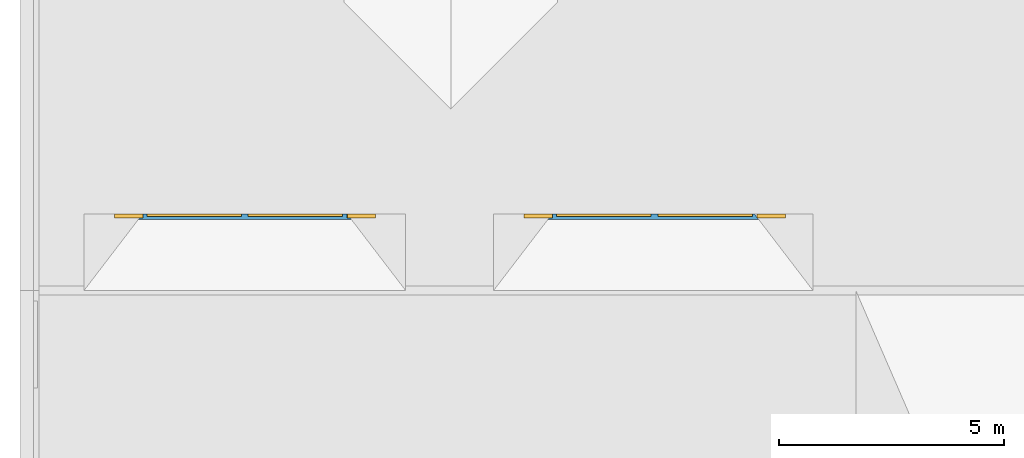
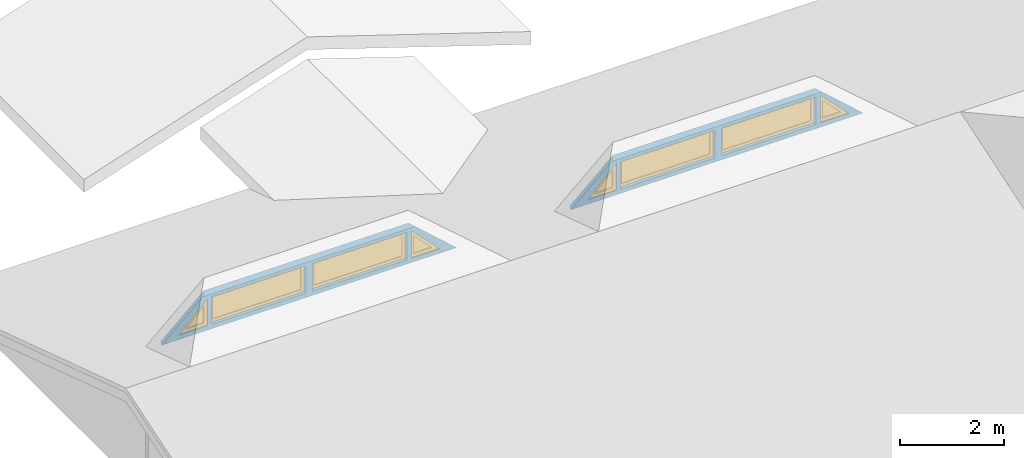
# One storey, part 2 of 7: 8 windows, 2 walls, 8 openings.
"""IFC2X3 building model written with IfcOpenShell, lengths in millimetres."""

from ifc_helpers import new_model, entity, si_unit, converted_unit, derived_unit, money_unit, direction, frame, origin_with_axes, place, context, subcontext, project, spatial, open_shell, faceted_brep, surface_model, source, transform, mapped, material, type_object, element, fill, save


model = new_model("IFC2X3")

# Units and contexts
model_context = context("Model", 3, precision=0.01, world=origin_with_axes(), true_north=direction((0.0, 1.0)))
body_context = subcontext(model_context, "Body", "Model", "MODEL_VIEW")
ifc_project = project(units=[si_unit("LENGTHUNIT", "METRE", prefix="MILLI"), si_unit("AREAUNIT", "SQUARE_METRE"), si_unit("VOLUMEUNIT", "CUBIC_METRE"), converted_unit("PLANEANGLEUNIT", "DEGREE", entity("IfcPlaneAngleMeasure", 0.0174532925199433), si_unit("PLANEANGLEUNIT", "RADIAN"), dimensions=[0, 0, 0, 0, 0, 0, 0]), money_unit("USD"), converted_unit("TIMEUNIT", "Year", entity("IfcTimeMeasure", 31557600.0), si_unit("TIMEUNIT", "SECOND"), dimensions=[0, 0, 1, 0, 0, 0, 0]), si_unit("MASSUNIT", "GRAM", prefix="KILO"), si_unit("THERMODYNAMICTEMPERATUREUNIT", "DEGREE_CELSIUS"), si_unit("LUMINOUSINTENSITYUNIT", "LUMEN"), si_unit("ENERGYUNIT", "JOULE", prefix="MEGA"), derived_unit("THERMALCONDUCTANCEUNIT", [(si_unit("POWERUNIT", "WATT"), 1), (si_unit("LENGTHUNIT", "METRE"), -1), (si_unit("THERMODYNAMICTEMPERATUREUNIT", "KELVIN"), -1)]), derived_unit("SPECIFICHEATCAPACITYUNIT", [(si_unit("ENERGYUNIT", "JOULE"), 1), (si_unit("MASSUNIT", "GRAM", prefix="KILO"), -1), (si_unit("THERMODYNAMICTEMPERATUREUNIT", "KELVIN"), -1)]), derived_unit("MASSDENSITYUNIT", [(si_unit("MASSUNIT", "GRAM", prefix="KILO"), 1), (si_unit("VOLUMEUNIT", "CUBIC_METRE"), -1)])], contexts=[model_context])

# Site, building, storey
site_placement = place(None, origin_with_axes())
site = spatial("IfcSite", under=ifc_project, at=site_placement, Name="Site", CompositionType="ELEMENT")
building_placement = place(site_placement, origin_with_axes())
building = spatial("IfcBuilding", under=site, at=building_placement, Name="Building", CompositionType="ELEMENT")
storey_placement = place(building_placement, frame((0.0, 0.0, 5900.0), z_axis=(0.0, 0.0, 1.0), x_axis=(1.0, 0.0, 0.0)))
storey = spatial("IfcBuildingStorey", under=building, at=storey_placement, Name="TAK", CompositionType="ELEMENT", Elevation=5900.0)

# Wall, openings, windows
ifc_material = material(Name="GENERIC - STRUCTURAL")
wall_type = type_object("IfcWallType", Name="GENERIC - STRUCTURAL 120", PredefinedType="NOTDEFINED")
wall_1_placement = place(storey_placement, frame((-1107.900709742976, 16200.0, 1912.173367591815), z_axis=(0.0, 0.0, 1.0), x_axis=(1.0, 0.0, 0.0)))
wall_1 = element("IfcWall", 1, at=wall_1_placement, inside=storey, type_object=wall_type, material=ifc_material, Name="SW - 001", context=body_context, shape_type="Brep", body=[
    faceted_brep([(6565.801361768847, -119.9999918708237, 2.504500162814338e-05), (5649.66880356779, -120.000000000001, 818.7505434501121), (916.1326159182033, -120.000000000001, 818.7505434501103), (1.121712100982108e-05, -120.0000040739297, -1.255128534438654e-05), (3207.900709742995, -119.9999918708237, 99.99999999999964), (1107.900709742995, -119.9999918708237, 99.99999999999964), (1107.900709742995, -119.9999918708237, 749.9999999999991), (3207.900709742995, -119.9999918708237, 749.9999999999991), (5457.900709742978, -120.000000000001, 749.9999999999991), (5457.900709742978, -120.000000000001, 99.99999999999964), (3357.900709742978, -120.000000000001, 99.99999999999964), (3357.900709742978, -120.000000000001, 749.9999999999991), (388.9383305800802, -120.000000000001, 99.99999999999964), (1021.43833058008, -120.000000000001, 749.9999999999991), (1021.93833058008, -120.000000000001, 99.99999999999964), (5557.900709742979, -120.0000040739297, 99.99999999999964), (5558.400709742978, -120.0000040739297, 749.9999999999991), (6190.900709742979, -120.0000040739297, 99.99999999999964), (6522.218762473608, 0.0, 0.0), (5557.900709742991, 0.0, 861.8140420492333), (1007.900709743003, 0.0, 861.8140420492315), (43.58265701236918, 0.0, 0.0), (3207.900709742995, 0.0, 99.99999999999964), (1107.900709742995, 0.0, 99.99999999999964), (1107.900709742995, 0.0, 749.9999999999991), (3207.900709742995, 0.0, 749.9999999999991), (5457.900709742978, 0.0, 749.9999999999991), (5457.900709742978, 0.0, 99.99999999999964), (3357.900709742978, 0.0, 99.99999999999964), (3357.900709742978, 0.0, 749.9999999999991), (1021.43833058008, 0.0, 749.9999999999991), (388.9383305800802, 0.0, 99.99999999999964), (1021.93833058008, 0.0, 99.99999999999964), (5557.900709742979, 0.0, 99.99999999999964), (5558.400709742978, 0.0, 749.9999999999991), (6190.900709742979, 0.0, 99.99999999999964)], [[[0, 1, 2, 3], [4, 5, 6, 7], [8, 9, 10, 11], [12, 13, 14], [15, 16, 17]], [[1, 0, 18, 19]], [[1, 19, 20, 2]], [[20, 21, 3, 2]], [[18, 0, 3, 21]], [[4, 22, 23, 5]], [[5, 23, 24, 6]], [[6, 24, 25, 7]], [[7, 25, 22, 4]], [[9, 8, 26, 27]], [[10, 9, 27, 28]], [[11, 10, 28, 29]], [[8, 11, 29, 26]], [[30, 13, 12, 31]], [[32, 14, 13, 30]], [[31, 12, 14, 32]], [[33, 34, 16, 15]], [[34, 35, 17, 16]], [[35, 33, 15, 17]], [[19, 18, 21, 20], [24, 23, 22, 25], [26, 29, 28, 27], [30, 31, 32], [34, 33, 35]]]),
])
opening_1_placement = place(wall_1_placement, frame((2157.900709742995, 0.0, 99.99999999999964), z_axis=(0.0, 0.0, 1.0), x_axis=(1.0, 0.0, 0.0)))
opening_1 = element("IfcOpeningElement", 2, at=opening_1_placement, cuts=wall_1, Name="WD - 001", context=body_context, shape_type="Brep", body=[
    faceted_brep([(-1050.0, -121.0000000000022, 649.9999999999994), (-1050.0, -121.0000000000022, 0.0), (1050.0, -121.0000000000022, 0.0), (1050.0, -121.0000000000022, 649.9999999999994), (-1050.0, 1.000000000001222, 649.9999999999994), (-1050.0, 1.000000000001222, 0.0), (1050.0, 1.000000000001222, 0.0), (1050.0, 1.000000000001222, 649.9999999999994)], [[[0, 1, 2, 3]], [[4, 5, 1, 0]], [[5, 6, 2, 1]], [[6, 7, 3, 2]], [[7, 4, 0, 3]], [[6, 5, 4, 7]]]),
])
opening_2_placement = place(wall_1_placement, frame((5874.400709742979, 0.0, 99.99999999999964), z_axis=(0.0, 0.0, 1.0), x_axis=(1.0, 0.0, 0.0)))
opening_2 = element("IfcOpeningElement", 3, at=opening_2_placement, cuts=wall_1, Name="WD - 001", context=body_context, shape_type="Brep", body=[
    faceted_brep([(-315.9999999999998, -121.0000000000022, 649.9999999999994), (-316.4999999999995, -121.0000000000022, 0.0), (316.4999999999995, -121.0000000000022, 0.0), (-315.9999999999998, 1.000000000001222, 649.9999999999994), (-316.4999999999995, 1.000000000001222, 0.0), (316.4999999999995, 1.000000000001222, 0.0)], [[[0, 1, 2]], [[3, 4, 1, 0]], [[4, 5, 2, 1]], [[5, 3, 0, 2]], [[5, 4, 3]]]),
])
opening_3_placement = place(wall_1_placement, frame((705.4383305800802, 0.0, 99.99999999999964), z_axis=(0.0, 0.0, 1.0), x_axis=(1.0, 0.0, 0.0)))
opening_3 = element("IfcOpeningElement", 4, at=opening_3_placement, cuts=wall_1, Name="WD - 001", context=body_context, shape_type="Brep", body=[
    faceted_brep([(316.0000000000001, -121.0000000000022, 649.9999999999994), (-316.5, -121.0000000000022, 0.0), (316.5, -121.0000000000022, 0.0), (316.0000000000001, 1.000000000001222, 649.9999999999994), (-316.5, 1.000000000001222, 0.0), (316.5, 1.000000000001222, 0.0)], [[[0, 1, 2]], [[3, 4, 1, 0]], [[4, 5, 2, 1]], [[5, 3, 0, 2]], [[5, 4, 3]]]),
])
opening_4_placement = place(wall_1_placement, frame((4407.900709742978, 0.0, 99.99999999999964), z_axis=(0.0, 0.0, 1.0), x_axis=(1.0, 0.0, 0.0)))
opening_4 = element("IfcOpeningElement", 5, at=opening_4_placement, cuts=wall_1, Name="WD - 001", context=body_context, shape_type="Brep", body=[
    faceted_brep([(-1050.0, -121.0000000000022, 649.9999999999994), (-1050.0, -121.0000000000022, 0.0), (1050.0, -121.0000000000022, 0.0), (1050.0, -121.0000000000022, 649.9999999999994), (-1050.0, 1.000000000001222, 649.9999999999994), (-1050.0, 1.000000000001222, 0.0), (1050.0, 1.000000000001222, 0.0), (1050.0, 1.000000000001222, 649.9999999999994)], [[[0, 1, 2, 3]], [[4, 5, 1, 0]], [[5, 6, 2, 1]], [[6, 7, 3, 2]], [[7, 4, 0, 3]], [[6, 5, 4, 7]]]),
])
window_style_1 = type_object("IfcWindowStyle", Name="Vindu variabelt", ConstructionType="NOTDEFINED", OperationType="SINGLE_PANEL", ParameterTakesPrecedence=False, Sizeable=False)
shared_shape_1 = source(origin_with_axes(), body_context, "Body", "SurfaceModel", [
    faceted_brep([(-984.0000000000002, -50.00000000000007, 584.0), (-984.0000000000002, 0.0, 584.0), (-1050.0, 0.0, 584.0), (-1050.0, -50.00000000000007, 584.0), (-984.0000000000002, -50.00000000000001, 66.0), (-984.0000000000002, 0.0, 66.0), (-1050.0, 0.0, 66.0), (-1050.0, -50.00000000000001, 66.0)], [[[0, 1, 2, 3]], [[4, 5, 1, 0]], [[1, 5, 6, 2]], [[3, 2, 6, 7]], [[0, 3, 7, 4]], [[7, 6, 5, 4]]]),
    faceted_brep([(984.0000000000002, -50.00000000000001, 66.0), (984.0000000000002, 0.0, 66.0), (1050.0, 0.0, 66.0), (1050.0, -50.00000000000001, 66.0), (984.0000000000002, -50.00000000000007, 584.0), (984.0000000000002, 0.0, 584.0), (1050.0, 0.0, 584.0), (1050.0, -50.00000000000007, 584.0)], [[[0, 1, 2, 3]], [[4, 5, 1, 0]], [[1, 5, 6, 2]], [[3, 2, 6, 7]], [[0, 3, 7, 4]], [[7, 6, 5, 4]]]),
    faceted_brep([(-984.0000000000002, -50.00000000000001, 66.0), (-984.0000000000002, 0.0, 66.0), (-1050.0, 0.0, 66.0), (-1050.0, -50.00000000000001, 66.0), (984.0000000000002, -50.00000000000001, 66.0), (984.0000000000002, 0.0, 66.0), (1050.0, 0.0, 66.0), (1050.0, 0.0, 0.0), (-1050.0, 0.0, 0.0), (-1050.0, -50.0, 0.0), (1050.0, -50.0, 0.0), (1050.0, -50.00000000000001, 66.0)], [[[0, 1, 2, 3]], [[4, 5, 1, 0]], [[1, 5, 6, 7, 8, 2]], [[3, 2, 8, 9]], [[0, 3, 9, 10, 11, 4]], [[11, 6, 5, 4]], [[10, 7, 6, 11]], [[9, 8, 7, 10]]]),
    faceted_brep([(984.0000000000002, -50.00000000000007, 584.0), (984.0000000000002, 0.0, 584.0), (1050.0, 0.0, 584.0), (1050.0, -50.00000000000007, 584.0), (-984.0000000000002, -50.00000000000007, 584.0), (-984.0000000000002, 0.0, 584.0), (-1050.0, 0.0, 584.0), (-1050.0, 0.0, 650.0), (1050.0, 0.0, 650.0), (1050.0, -50.00000000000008, 650.0), (-1050.0, -50.00000000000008, 650.0), (-1050.0, -50.00000000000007, 584.0)], [[[0, 1, 2, 3]], [[4, 5, 1, 0]], [[1, 5, 6, 7, 8, 2]], [[3, 2, 8, 9]], [[0, 3, 9, 10, 11, 4]], [[11, 6, 5, 4]], [[10, 7, 6, 11]], [[9, 8, 7, 10]]]),
    surface_model("IfcShellBasedSurfaceModel", [(-984.0000000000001, -35.00000000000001, 66.0), (984.0000000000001, -35.00000000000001, 66.0), (984.0000000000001, -35.00000000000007, 583.9999999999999), (-984.0000000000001, -35.00000000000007, 583.9999999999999)], [open_shell([[[0, 1, 2, 3]]])]),
    surface_model("IfcShellBasedSurfaceModel", [(-984.0000000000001, -15.00000000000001, 66.0), (-984.0000000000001, -15.00000000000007, 583.9999999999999), (984.0000000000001, -15.00000000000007, 583.9999999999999), (984.0000000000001, -15.00000000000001, 66.0)], [open_shell([[[0, 1, 2, 3]]])]),
])
window_1_placement = place(opening_1_placement, frame((-1050.0, 0.0, 0.0), z_axis=(0.0, 0.0, 1.0), x_axis=(1.0, 0.0, 0.0)))
window_1 = element("IfcWindow", 6, at=window_1_placement, inside=storey, type_object=window_style_1, Name="WD - 001", ObjectType="WINDOW", OverallHeight=650.0, OverallWidth=2100.0, context=body_context, shape_type="MappedRepresentation", body=[
    mapped(shared_shape_1, transform((1050.0, 0.0, 0.0))),
])
fill(opening_1, window_1)
window_2_placement = place(opening_4_placement, frame((-1050.0, 0.0, 0.0), z_axis=(0.0, 0.0, 1.0), x_axis=(1.0, 0.0, 0.0)))
window_2 = element("IfcWindow", 7, at=window_2_placement, inside=storey, type_object=window_style_1, Name="WD - 001", ObjectType="WINDOW", OverallHeight=650.0, OverallWidth=2100.0, context=body_context, shape_type="MappedRepresentation", body=[
    mapped(shared_shape_1, transform((1050.0, 0.0, 0.0))),
])
fill(opening_4, window_2)
window_style_2 = type_object("IfcWindowStyle", Name="Vindu trekantet", ConstructionType="NOTDEFINED", OperationType="USERDEFINED", ParameterTakesPrecedence=False, Sizeable=False)
shared_shape_2 = source(origin_with_axes(), body_context, "Body", "SurfaceModel", [
    faceted_brep([(316.5, -92.0, 0.0), (160.1867302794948, -92.0, 66.0), (160.1867302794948, 0.0, 66.0), (316.5, 0.0, 0.0), (-316.0, -92.00000000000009, 649.9999999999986), (-250.1248542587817, -92.00000000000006, 487.6640789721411), (-250.1248542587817, 0.0, 487.6640789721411), (-316.0, 0.0, 649.9999999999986)], [[[0, 1, 2, 3]], [[0, 4, 5, 1]], [[1, 5, 6, 2]], [[3, 2, 6, 7]], [[4, 0, 3, 7]], [[5, 4, 7, 6]]]),
    faceted_brep([(-316.0, -92.00000000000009, 649.9999999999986), (-250.1248542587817, -92.00000000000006, 487.6640789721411), (-250.1248542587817, 0.0, 487.6640789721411), (-316.0, 0.0, 649.9999999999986), (-316.5, -92.0, 0.0), (-250.4492112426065, -92.0, 66.0), (-250.4492112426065, 0.0, 66.0), (-316.5, 0.0, 0.0)], [[[0, 1, 2, 3]], [[0, 4, 5, 1]], [[1, 5, 6, 2]], [[3, 2, 6, 7]], [[4, 0, 3, 7]], [[5, 4, 7, 6]]]),
    faceted_brep([(316.5, -92.0, 0.0), (-316.5, -92.0, 0.0), (-316.5, 0.0, 0.0), (316.5, 0.0, 0.0), (160.1867302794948, -92.0, 66.0), (-250.4492112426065, -92.0, 66.0), (-250.4492112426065, 0.0, 66.0), (160.1867302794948, 0.0, 66.0)], [[[0, 1, 2, 3]], [[0, 4, 5, 1]], [[1, 5, 6, 2]], [[3, 2, 6, 7]], [[4, 0, 3, 7]], [[5, 4, 7, 6]]]),
    surface_model("IfcShellBasedSurfaceModel", [(160.1867302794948, -56.0, 66.0), (-250.1248542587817, -56.00000000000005, 487.664078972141), (-250.4492112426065, -56.0, 66.0)], [open_shell([[[0, 1, 2]]])]),
    surface_model("IfcShellBasedSurfaceModel", [(160.1867302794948, -36.00000000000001, 66.0), (-250.4492112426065, -36.00000000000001, 66.0), (-250.1248542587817, -36.00000000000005, 487.664078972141)], [open_shell([[[0, 1, 2]]])]),
])
window_3_placement = place(opening_2_placement, frame((-316.4999999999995, 0.0, 0.0), z_axis=(0.0, 0.0, 1.0), x_axis=(1.0, 0.0, 0.0)))
window_3 = element("IfcWindow", 8, at=window_3_placement, inside=storey, type_object=window_style_2, Name="WD - 001", ObjectType="WINDOW", OverallHeight=650.0, OverallWidth=633.0, context=body_context, shape_type="MappedRepresentation", body=[
    mapped(shared_shape_2, transform((316.4999999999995, 0.0, 0.0))),
])
fill(opening_2, window_3)
shared_shape_3 = source(origin_with_axes(), body_context, "Body", "SurfaceModel", [
    faceted_brep([(-316.5, -92.0, 0.0), (-316.5, 0.0, 0.0), (-160.1867302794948, 0.0, 66.0), (-160.1867302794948, -92.0, 66.0), (316.0, -92.00000000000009, 649.9999999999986), (316.0, 0.0, 649.9999999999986), (250.1248542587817, 0.0, 487.6640789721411), (250.1248542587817, -92.00000000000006, 487.6640789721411)], [[[0, 1, 2, 3]], [[4, 5, 1, 0]], [[1, 5, 6, 2]], [[3, 2, 6, 7]], [[0, 3, 7, 4]], [[7, 6, 5, 4]]]),
    faceted_brep([(316.0, -92.00000000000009, 649.9999999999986), (316.0, 0.0, 649.9999999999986), (250.1248542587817, 0.0, 487.6640789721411), (250.1248542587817, -92.00000000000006, 487.6640789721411), (316.5, -92.0, 0.0), (316.5, 0.0, 0.0), (250.4492112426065, 0.0, 66.0), (250.4492112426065, -92.0, 66.0)], [[[0, 1, 2, 3]], [[4, 5, 1, 0]], [[1, 5, 6, 2]], [[3, 2, 6, 7]], [[0, 3, 7, 4]], [[7, 6, 5, 4]]]),
    faceted_brep([(-316.5, -92.0, 0.0), (-316.5, 0.0, 0.0), (316.5, 0.0, 0.0), (316.5, -92.0, 0.0), (-160.1867302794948, -92.0, 66.0), (-160.1867302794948, 0.0, 66.0), (250.4492112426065, 0.0, 66.0), (250.4492112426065, -92.0, 66.0)], [[[0, 1, 2, 3]], [[4, 5, 1, 0]], [[1, 5, 6, 2]], [[3, 2, 6, 7]], [[0, 3, 7, 4]], [[7, 6, 5, 4]]]),
    surface_model("IfcShellBasedSurfaceModel", [(-160.1867302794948, -56.0, 66.0), (250.4492112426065, -56.0, 66.0), (250.1248542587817, -56.00000000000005, 487.664078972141)], [open_shell([[[0, 1, 2]]])]),
    surface_model("IfcShellBasedSurfaceModel", [(-160.1867302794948, -36.00000000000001, 66.0), (250.1248542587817, -36.00000000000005, 487.664078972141), (250.4492112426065, -36.00000000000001, 66.0)], [open_shell([[[0, 1, 2]]])]),
])
window_4_placement = place(opening_3_placement, frame((-316.5, 0.0, 0.0), z_axis=(0.0, 0.0, 1.0), x_axis=(1.0, 0.0, 0.0)))
window_4 = element("IfcWindow", 9, at=window_4_placement, inside=storey, type_object=window_style_2, Name="WD - 001", ObjectType="WINDOW", OverallHeight=650.0, OverallWidth=633.0, context=body_context, shape_type="MappedRepresentation", body=[
    mapped(shared_shape_3, transform((316.5, 0.0, 0.0))),
])
fill(opening_3, window_4)

wall_2_placement = place(storey_placement, frame((7992.099361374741, 16200.0, 1912.173367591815), z_axis=(0.0, 0.0, 1.0), x_axis=(1.0, 0.0, 0.0)))
wall_2 = element("IfcWall", 10, at=wall_2_placement, inside=storey, type_object=wall_type, material=ifc_material, Name="SW - 001", context=body_context, shape_type="Brep", body=[
    faceted_brep([(916.1325447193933, -119.9999999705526, 818.7505435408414), (-1.869605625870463e-05, -119.9999932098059, 2.091976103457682e-05), (6515.801294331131, -119.9999928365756, 2.206963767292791e-05), (5599.66873245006, -120.000000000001, 818.7505434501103), (3207.900638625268, -119.9999999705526, 99.99999999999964), (1107.900638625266, -119.9999999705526, 99.99999999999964), (1107.900638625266, -119.9999999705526, 749.9999999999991), (3207.900638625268, -119.9999999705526, 749.9999999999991), (5457.90063862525, -119.9999932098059, 749.9999999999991), (5457.90063862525, -119.9999932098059, 99.99999999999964), (3357.900638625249, -119.9999932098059, 99.99999999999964), (3357.900638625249, -119.9999932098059, 749.9999999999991), (388.9382594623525, -119.9999928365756, 99.99999999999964), (1021.438259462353, -119.9999928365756, 749.9999999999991), (1021.938259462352, -119.9999928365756, 99.99999999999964), (5557.900638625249, -120.000000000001, 99.99999999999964), (5558.400638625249, -120.000000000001, 749.9999999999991), (6190.900638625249, -120.000000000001, 99.99999999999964), (1007.900638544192, 2.944844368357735e-08, 861.8140421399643), (43.58258570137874, 0.0, 0.0), (6472.218691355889, 0.0, 0.0), (5507.900638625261, 0.0, 861.8140420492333), (3207.900638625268, 0.0, 99.99999999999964), (1107.900638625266, 0.0, 99.99999999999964), (1107.900638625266, 0.0, 749.9999999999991), (3207.900638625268, 0.0, 749.9999999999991), (5457.90063862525, 2.944844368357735e-08, 749.9999999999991), (5457.90063862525, 2.944844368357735e-08, 99.99999999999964), (3357.900638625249, 2.944844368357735e-08, 99.99999999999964), (3357.900638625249, 2.944844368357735e-08, 749.9999999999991), (1021.438259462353, 0.0, 749.9999999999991), (388.9382594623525, 0.0, 99.99999999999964), (1021.938259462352, 0.0, 99.99999999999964), (5557.900638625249, 0.0, 99.99999999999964), (5558.400638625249, 0.0, 749.9999999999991), (6190.900638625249, 0.0, 99.99999999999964)], [[[0, 1, 2, 3], [4, 5, 6, 7], [8, 9, 10, 11], [12, 13, 14], [15, 16, 17]], [[0, 18, 19, 1]], [[1, 19, 20, 2]], [[2, 20, 21, 3]], [[18, 0, 3, 21]], [[4, 22, 23, 5]], [[5, 23, 24, 6]], [[6, 24, 25, 7]], [[7, 25, 22, 4]], [[9, 8, 26, 27]], [[10, 9, 27, 28]], [[11, 10, 28, 29]], [[8, 11, 29, 26]], [[30, 13, 12, 31]], [[32, 14, 13, 30]], [[31, 12, 14, 32]], [[33, 34, 16, 15]], [[34, 35, 17, 16]], [[35, 33, 15, 17]], [[19, 18, 21, 20], [24, 23, 22, 25], [26, 29, 28, 27], [30, 31, 32], [34, 33, 35]]]),
])
opening_5_placement = place(wall_2_placement, frame((2157.900638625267, 0.0, 99.99999999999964), z_axis=(0.0, 0.0, 1.0), x_axis=(1.0, 0.0, 0.0)))
opening_5 = element("IfcOpeningElement", 11, at=opening_5_placement, cuts=wall_2, Name="WD - 001", context=body_context, shape_type="Brep", body=[
    faceted_brep([(-1050.000000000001, -121.0000000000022, 649.9999999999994), (-1050.000000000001, -121.0000000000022, 0.0), (1050.000000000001, -121.0000000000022, 0.0), (1050.000000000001, -121.0000000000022, 649.9999999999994), (-1050.000000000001, 1.000000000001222, 649.9999999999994), (-1050.000000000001, 1.000000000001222, 0.0), (1050.000000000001, 1.000000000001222, 0.0), (1050.000000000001, 1.000000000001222, 649.9999999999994)], [[[0, 1, 2, 3]], [[4, 5, 1, 0]], [[5, 6, 2, 1]], [[6, 7, 3, 2]], [[7, 4, 0, 3]], [[6, 5, 4, 7]]]),
])
opening_6_placement = place(wall_2_placement, frame((4407.900638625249, 0.0, 99.99999999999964), z_axis=(0.0, 0.0, 1.0), x_axis=(1.0, 0.0, 0.0)))
opening_6 = element("IfcOpeningElement", 12, at=opening_6_placement, cuts=wall_2, Name="WD - 001", context=body_context, shape_type="Brep", body=[
    faceted_brep([(-1050.000000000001, -121.0000000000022, 649.9999999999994), (-1050.000000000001, -121.0000000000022, 0.0), (1050.000000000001, -121.0000000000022, 0.0), (1050.000000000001, -121.0000000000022, 649.9999999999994), (-1050.000000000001, 1.000000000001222, 649.9999999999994), (-1050.000000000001, 1.000000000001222, 0.0), (1050.000000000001, 1.000000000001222, 0.0), (1050.000000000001, 1.000000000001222, 649.9999999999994)], [[[0, 1, 2, 3]], [[4, 5, 1, 0]], [[5, 6, 2, 1]], [[6, 7, 3, 2]], [[7, 4, 0, 3]], [[6, 5, 4, 7]]]),
])
opening_7_placement = place(wall_2_placement, frame((5874.400638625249, 0.0, 99.99999999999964), z_axis=(0.0, 0.0, 1.0), x_axis=(1.0, 0.0, 0.0)))
opening_7 = element("IfcOpeningElement", 13, at=opening_7_placement, cuts=wall_2, Name="WD - 001", context=body_context, shape_type="Brep", body=[
    faceted_brep([(-316.0000000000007, -121.0000000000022, 649.9999999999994), (-316.4999999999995, -121.0000000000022, 0.0), (316.4999999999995, -121.0000000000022, 0.0), (-316.0000000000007, 1.000000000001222, 649.9999999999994), (-316.4999999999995, 1.000000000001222, 0.0), (316.4999999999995, 1.000000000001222, 0.0)], [[[0, 1, 2]], [[3, 4, 1, 0]], [[4, 5, 2, 1]], [[5, 3, 0, 2]], [[5, 4, 3]]]),
])
opening_8_placement = place(wall_2_placement, frame((705.4382594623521, 0.0, 99.99999999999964), z_axis=(0.0, 0.0, 1.0), x_axis=(1.0, 0.0, 0.0)))
opening_8 = element("IfcOpeningElement", 14, at=opening_8_placement, cuts=wall_2, Name="WD - 001", context=body_context, shape_type="Brep", body=[
    faceted_brep([(316.0000000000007, -121.0000000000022, 649.9999999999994), (-316.4999999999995, -121.0000000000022, 0.0), (316.4999999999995, -121.0000000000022, 0.0), (316.0000000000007, 1.000000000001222, 649.9999999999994), (-316.4999999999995, 1.000000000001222, 0.0), (316.4999999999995, 1.000000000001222, 0.0)], [[[0, 1, 2]], [[3, 4, 1, 0]], [[4, 5, 2, 1]], [[5, 3, 0, 2]], [[5, 4, 3]]]),
])
window_5_placement = place(opening_5_placement, frame((-1050.000000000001, 0.0, 0.0), z_axis=(0.0, 0.0, 1.0), x_axis=(1.0, 0.0, 0.0)))
window_5 = element("IfcWindow", 15, at=window_5_placement, inside=storey, type_object=window_style_1, Name="WD - 001", ObjectType="WINDOW", OverallHeight=650.0, OverallWidth=2100.0, context=body_context, shape_type="MappedRepresentation", body=[
    mapped(shared_shape_1, transform((1050.000000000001, 0.0, 0.0))),
])
fill(opening_5, window_5)
window_6_placement = place(opening_6_placement, frame((-1050.000000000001, 0.0, 0.0), z_axis=(0.0, 0.0, 1.0), x_axis=(1.0, 0.0, 0.0)))
window_6 = element("IfcWindow", 16, at=window_6_placement, inside=storey, type_object=window_style_1, Name="WD - 001", ObjectType="WINDOW", OverallHeight=650.0, OverallWidth=2100.0, context=body_context, shape_type="MappedRepresentation", body=[
    mapped(shared_shape_1, transform((1050.000000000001, 0.0, 0.0))),
])
fill(opening_6, window_6)
window_7_placement = place(opening_7_placement, frame((-316.4999999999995, 0.0, 0.0), z_axis=(0.0, 0.0, 1.0), x_axis=(1.0, 0.0, 0.0)))
window_7 = element("IfcWindow", 17, at=window_7_placement, inside=storey, type_object=window_style_2, Name="WD - 001", ObjectType="WINDOW", OverallHeight=650.0, OverallWidth=633.0, context=body_context, shape_type="MappedRepresentation", body=[
    mapped(shared_shape_2, transform((316.4999999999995, 0.0, 0.0))),
])
fill(opening_7, window_7)
window_8_placement = place(opening_8_placement, frame((-316.4999999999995, 0.0, 0.0), z_axis=(0.0, 0.0, 1.0), x_axis=(1.0, 0.0, 0.0)))
window_8 = element("IfcWindow", 18, at=window_8_placement, inside=storey, type_object=window_style_2, Name="WD - 001", ObjectType="WINDOW", OverallHeight=650.0, OverallWidth=633.0, context=body_context, shape_type="MappedRepresentation", body=[
    mapped(shared_shape_3, transform((316.4999999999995, 0.0, 0.0))),
])
fill(opening_8, window_8)

save(model, "model.ifc")
